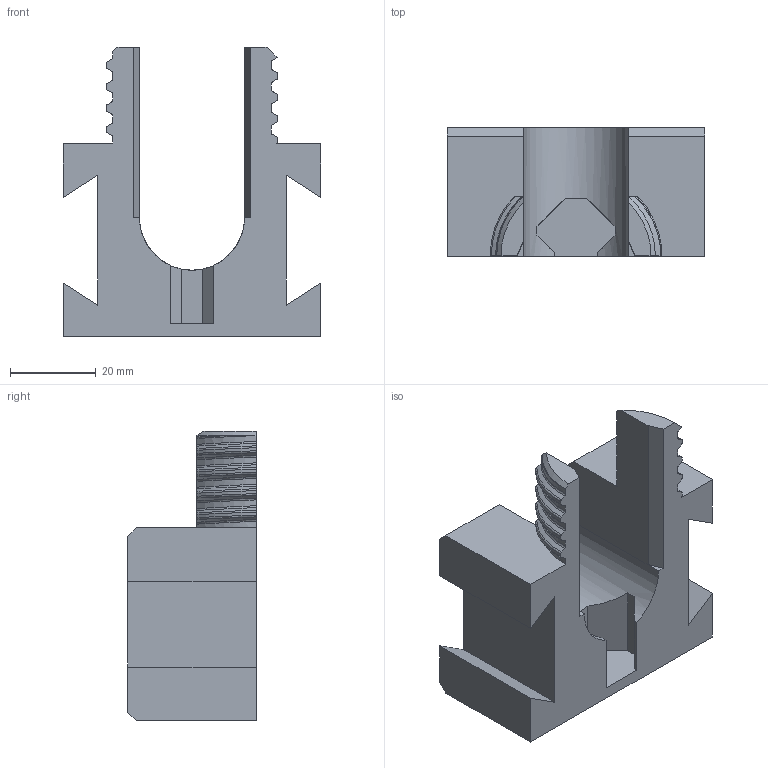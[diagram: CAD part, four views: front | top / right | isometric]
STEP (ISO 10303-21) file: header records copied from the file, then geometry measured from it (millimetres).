
FILE_DESCRIPTION (( 'STEP AP214' ), '1' );
FILE_NAME ('DS_v2B_DrziakLPu.STEP', '2026-03-22T08:49:16', ( '' ), ( '' ), 'SwSTEP 2.0', 'SolidWorks 2026', '' );
FILE_SCHEMA (( 'AUTOMOTIVE_DESIGN' ));
Length unit declared in the file: millimetre
Products named in the file (1): DS_v2B_DrziakLPu
Bounding box: 60 x 30 x 67.5 mm (x, y, z)
Volume: 49461.1 mm3; surface area: 14861.9 mm2
Topology: 1 solids, 1 shells, 121 faces, 335 edges, 216 vertices
Faces by surface type: bspline 63, plane 46, cylinder 10, cone 2
Entity records: 37984 total; most frequent: CARTESIAN_POINT 35665, ORIENTED_EDGE 670, EDGE_CURVE 335, DIRECTION 254, VERTEX_POINT 216, VECTOR 124, LINE 124, FACE_OUTER_BOUND 121
